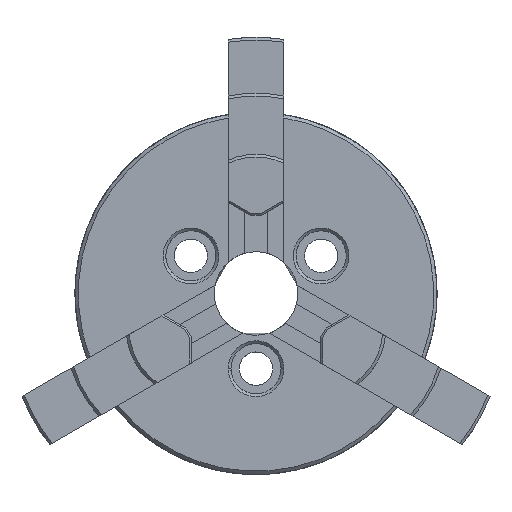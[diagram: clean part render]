
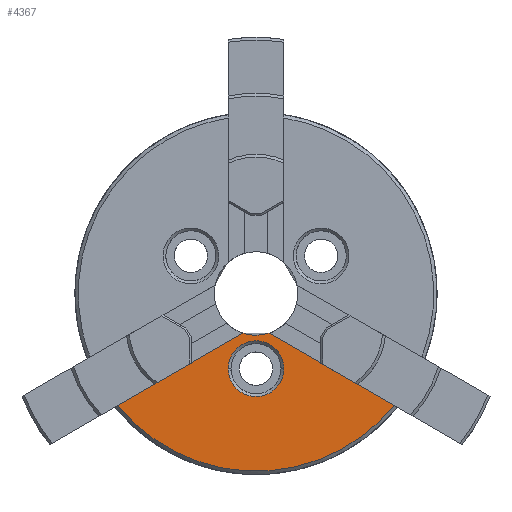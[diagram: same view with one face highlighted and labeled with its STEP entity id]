
A CAD part, front view. The second image highlights one B-rep face of the part: STEP entity #4367.
In plain terms, the highlighted planar face has unit normal (0, -1, 0).
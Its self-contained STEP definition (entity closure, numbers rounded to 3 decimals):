
#78=(
BOUNDED_CURVE()
B_SPLINE_CURVE(2,(#115434,#115435,#115436),.UNSPECIFIED.,.F.,.F.)
B_SPLINE_CURVE_WITH_KNOTS((3,3),(-21.907,-17.274),
 .UNSPECIFIED.)
CURVE()
GEOMETRIC_REPRESENTATION_ITEM()
RATIONAL_B_SPLINE_CURVE((1.,0.95,1.))
REPRESENTATION_ITEM('')
);
#679=FACE_BOUND('',#11685,.T.);
#4367=ADVANCED_FACE('',(#8001,#679),#51988,.T.);
#8001=FACE_OUTER_BOUND('',#11684,.T.);
#11684=EDGE_LOOP('',(#27761,#27762,#27763,#27764));
#11685=EDGE_LOOP('',(#27765,#27766));
#27761=ORIENTED_EDGE('',*,*,#36087,.T.);
#27762=ORIENTED_EDGE('',*,*,#36137,.T.);
#27763=ORIENTED_EDGE('',*,*,#36088,.T.);
#27764=ORIENTED_EDGE('',*,*,#36131,.T.);
#27765=ORIENTED_EDGE('',*,*,#36181,.T.);
#27766=ORIENTED_EDGE('',*,*,#36226,.T.);
#36087=EDGE_CURVE('',#48834,#48859,#44196,.T.);
#36088=EDGE_CURVE('',#48860,#48844,#44197,.T.);
#36131=EDGE_CURVE('',#48844,#48834,#78,.T.);
#36137=EDGE_CURVE('',#48859,#48860,#44228,.T.);
#36181=EDGE_CURVE('',#48906,#48932,#44266,.T.);
#36226=EDGE_CURVE('',#48932,#48906,#44298,.T.);
#44196=B_SPLINE_CURVE_WITH_KNOTS('',3,(#115272,#115273,#115274,#115275),
 .UNSPECIFIED.,.F.,.F.,(4,4),(2.703,28.619),
 .UNSPECIFIED.);
#44197=B_SPLINE_CURVE_WITH_KNOTS('',3,(#115276,#115277,#115278,#115279),
 .UNSPECIFIED.,.F.,.F.,(4,4),(-28.619,-2.703),
 .UNSPECIFIED.);
#44228=B_SPLINE_CURVE_WITH_KNOTS('',3,(#115464,#115465,#115466,#115467,#115468,
#115469,#115470,#115471,#115472,#115473,#115474,#115475,#115476),
 .UNSPECIFIED.,.F.,.F.,(4,1,1,1,1,1,1,1,1,1,4),(55.129,55.757,
61.935,68.375,74.749,81.132,87.596,
93.812,100.216,105.865,111.898),
 .UNSPECIFIED.);
#44266=B_SPLINE_CURVE_WITH_KNOTS('',3,(#115632,#115633,#115634,#115635,#115636,
#115637,#115638,#115639,#115640,#115641,#115642),.UNSPECIFIED.,.F.,.F.,(4,
1,1,1,1,1,1,1,4),(0.,1.823,3.797,5.782,7.854,
9.677,11.651,13.636,15.707),
 .UNSPECIFIED.);
#44298=B_SPLINE_CURVE_WITH_KNOTS('',3,(#115885,#115886,#115887,#115888,#115889,
#115890,#115891,#115892,#115893,#115894,#115895),.UNSPECIFIED.,.F.,.F.,(4,
1,1,1,1,1,1,1,4),(15.707,17.53,19.505,21.49,
23.561,25.384,27.359,29.343,31.415),
 .UNSPECIFIED.);
#48834=VERTEX_POINT('',#114951);
#48844=VERTEX_POINT('',#114961);
#48859=VERTEX_POINT('',#114976);
#48860=VERTEX_POINT('',#114977);
#48906=VERTEX_POINT('',#115023);
#48932=VERTEX_POINT('',#115049);
#51988=PLANE('',#54612);
#54612=AXIS2_PLACEMENT_3D('',#114198,#57151,$);
#57151=DIRECTION('',(0.,-1.,0.));
#114198=CARTESIAN_POINT('',(44.396,-32.,-11.896));
#114951=CARTESIAN_POINT('',(-2.341,-32.,-7.125));
#114961=CARTESIAN_POINT('',(2.341,-32.,-7.125));
#114976=CARTESIAN_POINT('',(-24.785,-32.,-20.083));
#114977=CARTESIAN_POINT('',(24.785,-32.,-20.083));
#115023=CARTESIAN_POINT('',(5.,-32.,-13.5));
#115049=CARTESIAN_POINT('',(-5.,-32.,-13.5));
#115272=CARTESIAN_POINT('',(-2.341,-32.,-7.125));
#115273=CARTESIAN_POINT('',(-9.822,-32.,-11.444));
#115274=CARTESIAN_POINT('',(-17.304,-32.,-15.764));
#115275=CARTESIAN_POINT('',(-24.785,-32.,-20.083));
#115276=CARTESIAN_POINT('',(24.785,-32.,-20.083));
#115277=CARTESIAN_POINT('',(17.304,-32.,-15.764));
#115278=CARTESIAN_POINT('',(9.822,-32.,-11.444));
#115279=CARTESIAN_POINT('',(2.341,-32.,-7.125));
#115434=CARTESIAN_POINT('',(2.341,-32.,-7.125));
#115435=CARTESIAN_POINT('',(0.,-32.,-7.895));
#115436=CARTESIAN_POINT('',(-2.341,-32.,-7.125));
#115464=CARTESIAN_POINT('',(-24.785,-32.,-20.083));
#115465=CARTESIAN_POINT('',(-24.653,-32.,-20.246));
#115466=CARTESIAN_POINT('',(-23.207,-32.,-21.995));
#115467=CARTESIAN_POINT('',(-20.033,-32.,-25.093));
#115468=CARTESIAN_POINT('',(-14.695,-32.,-28.556));
#115469=CARTESIAN_POINT('',(-8.71,-32.,-30.91));
#115470=CARTESIAN_POINT('',(-2.368,-32.,-32.029));
#115471=CARTESIAN_POINT('',(4.016,-32.,-31.859));
#115472=CARTESIAN_POINT('',(10.247,-32.,-30.43));
#115473=CARTESIAN_POINT('',(15.827,-32.,-27.916));
#115474=CARTESIAN_POINT('',(20.78,-32.,-24.438));
#115475=CARTESIAN_POINT('',(23.519,-32.,-21.645));
#115476=CARTESIAN_POINT('',(24.785,-32.,-20.083));
#115632=CARTESIAN_POINT('',(5.,-32.,-13.5));
#115633=CARTESIAN_POINT('',(5.,-32.,-14.108));
#115634=CARTESIAN_POINT('',(4.767,-32.,-15.374));
#115635=CARTESIAN_POINT('',(3.72,-32.,-17.036));
#115636=CARTESIAN_POINT('',(2.042,-32.,-18.216));
#115637=CARTESIAN_POINT('',(0.083,-32.,-18.628));
#115638=CARTESIAN_POINT('',(-1.873,-32.,-18.267));
#115639=CARTESIAN_POINT('',(-3.536,-32.,-17.22));
#115640=CARTESIAN_POINT('',(-4.716,-32.,-15.542));
#115641=CARTESIAN_POINT('',(-5.,-32.,-14.191));
#115642=CARTESIAN_POINT('',(-5.,-32.,-13.5));
#115885=CARTESIAN_POINT('',(-5.,-32.,-13.5));
#115886=CARTESIAN_POINT('',(-5.,-32.,-12.892));
#115887=CARTESIAN_POINT('',(-4.767,-32.,-11.627));
#115888=CARTESIAN_POINT('',(-3.72,-32.,-9.963));
#115889=CARTESIAN_POINT('',(-2.042,-32.,-8.784));
#115890=CARTESIAN_POINT('',(-0.083,-32.,-8.372));
#115891=CARTESIAN_POINT('',(1.873,-32.,-8.733));
#115892=CARTESIAN_POINT('',(3.537,-32.,-9.78));
#115893=CARTESIAN_POINT('',(4.716,-32.,-11.458));
#115894=CARTESIAN_POINT('',(5.001,-32.,-12.809));
#115895=CARTESIAN_POINT('',(5.,-32.,-13.5));
